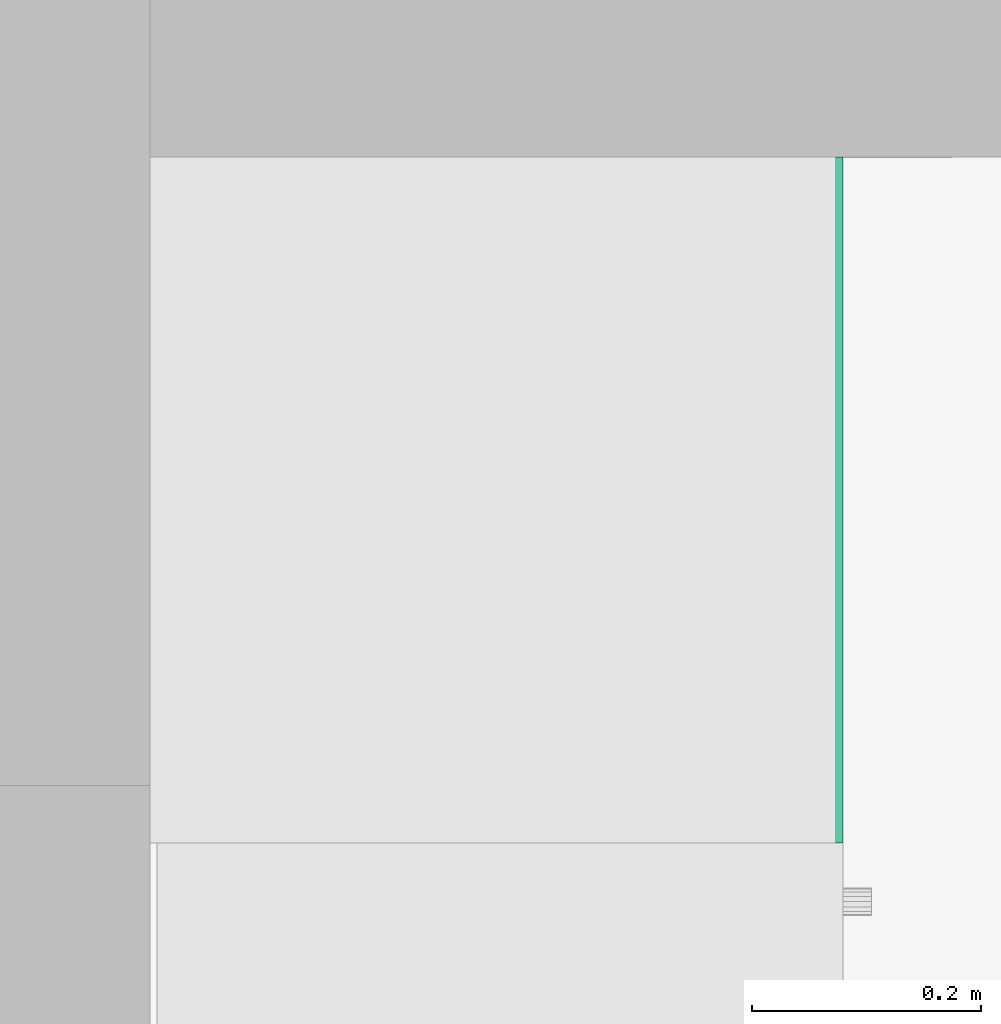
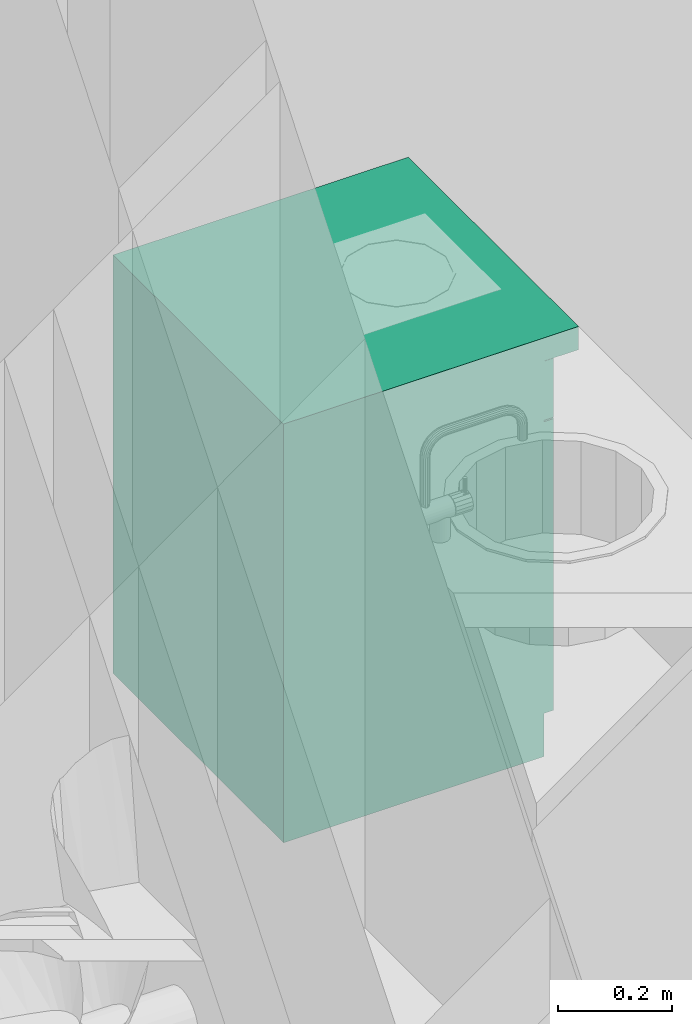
# One storey, part 30 of 165: 1 flow terminal.
"""IFC2X3 building model written with IfcOpenShell, lengths in millimetres."""

from ifc_helpers import new_model, entity, si_unit, converted_unit, money_unit, direction, frame, origin_with_axes, place, context, subcontext, project, spatial, faceted_brep, source, transform, mapped, material, material_list, type_object, element, save


model = new_model("IFC2X3")

# Units and contexts
model_context = context("Model", 3, precision=1e-05, world=origin_with_axes(), true_north=direction((0.0, 1.0)))
body_context = subcontext(model_context, "Body", "Model", "MODEL_VIEW")
ifc_project = project(units=[si_unit("LENGTHUNIT", "METRE", prefix="MILLI"), si_unit("AREAUNIT", "SQUARE_METRE"), si_unit("VOLUMEUNIT", "CUBIC_METRE"), converted_unit("PLANEANGLEUNIT", "DEGREE", entity("IfcPlaneAngleMeasure", 0.0174532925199), si_unit("PLANEANGLEUNIT", "RADIAN"), dimensions=[0, 0, 0, 0, 0, 0, 0]), si_unit("SOLIDANGLEUNIT", "STERADIAN"), money_unit("USD"), converted_unit("TIMEUNIT", "Year", entity("IfcTimeMeasure", 31556926.0), si_unit("TIMEUNIT", "SECOND"), dimensions=[0, 0, 0, 0, 0, 0, 0]), si_unit("MASSUNIT", "GRAM"), si_unit("THERMODYNAMICTEMPERATUREUNIT", "DEGREE_CELSIUS"), si_unit("LUMINOUSINTENSITYUNIT", "LUMEN")], contexts=[model_context])

# Site, building, storey
site_placement = place(None, origin_with_axes())
site = spatial("IfcSite", under=ifc_project, at=site_placement, Name="Site", CompositionType="ELEMENT")
building_placement = place(site_placement, origin_with_axes())
building = spatial("IfcBuilding", under=site, at=building_placement, Name="Building", CompositionType="ELEMENT")
storey_placement = place(building_placement, frame((0.0, 0.0, 6300.0), z_axis=(0.0, 0.0, 1.0), x_axis=(1.0, 0.0, 0.0)))
storey = spatial("IfcBuildingStorey", under=building, at=storey_placement, Name="4KORRUS", CompositionType="ELEMENT", Elevation=6300.0)

# Flow terminal
ifc_material = material(Name="Background")
ifc_material_list = material_list([ifc_material])
sanitary_terminal_type = type_object("IfcSanitaryTerminalType", Name="Cabinet Base Single Door 19", PredefinedType="SINK")
shared_shape = source(origin_with_axes(), body_context, "Body", "Brep", [
    faceted_brep([(20.0, 70.0, 710.0), (580.0, 70.0, 710.0), (580.0, 70.0, 730.0), (20.0, 70.0, 730.0), (20.0, 580.0, 710.0), (580.0, 580.0, 710.0), (580.0, 580.0, 730.0), (20.0, 580.0, 730.0)], [[[0, 1, 2, 3]], [[0, 4, 5, 1]], [[1, 5, 6, 2]], [[3, 2, 6, 7]], [[4, 0, 3, 7]], [[5, 4, 7, 6]]]),
    faceted_brep([(0.0, 70.0, 0.0), (600.0, 70.0, 0.0), (600.0, 70.0, 90.0), (0.0, 70.0, 90.0), (0.0, 600.0, 0.0), (600.0, 600.0, 0.0), (600.0, 600.0, 90.0), (0.0, 600.0, 90.0)], [[[0, 1, 2, 3]], [[0, 4, 5, 1]], [[1, 5, 6, 2]], [[3, 2, 6, 7]], [[4, 0, 3, 7]], [[5, 4, 7, 6]]]),
    faceted_brep([(0.0, 70.0, 830.0), (20.0, 70.0, 830.0), (20.0, 70.0, 850.0), (0.0, 70.0, 850.0), (0.0, 600.0, 830.0), (20.0, 600.0, 830.0), (580.0, 600.0, 830.0), (600.0, 600.0, 830.0), (600.0, 70.0, 830.0), (580.0, 70.0, 830.0), (580.0, 70.0, 850.0), (600.0, 70.0, 850.0), (600.0, 600.0, 850.0), (580.0, 600.0, 850.0), (20.0, 600.0, 850.0), (0.0, 600.0, 850.0)], [[[0, 1, 2, 3]], [[0, 4, 5, 6, 7, 8, 9, 1]], [[1, 9, 10, 2]], [[3, 2, 10, 11, 12, 13, 14, 15]], [[4, 0, 3, 15]], [[5, 4, 15, 14]], [[6, 5, 14, 13]], [[7, 6, 13, 12]], [[8, 7, 12, 11]], [[9, 8, 11, 10]]]),
    faceted_brep([(0.0, 70.0, 90.0), (20.0, 70.0, 90.0), (20.0, 70.0, 110.0), (0.0, 70.0, 110.0), (0.0, 600.0, 90.0), (20.0, 600.0, 90.0), (580.0, 600.0, 90.0), (600.0, 600.0, 90.0), (600.0, 70.0, 90.0), (580.0, 70.0, 90.0), (580.0, 70.0, 110.0), (600.0, 70.0, 110.0), (600.0, 600.0, 110.0), (580.0, 600.0, 110.0), (20.0, 600.0, 110.0), (0.0, 600.0, 110.0)], [[[0, 1, 2, 3]], [[0, 4, 5, 6, 7, 8, 9, 1]], [[1, 9, 10, 2]], [[3, 2, 10, 11, 12, 13, 14, 15]], [[4, 0, 3, 15]], [[5, 4, 15, 14]], [[6, 5, 14, 13]], [[7, 6, 13, 12]], [[8, 7, 12, 11]], [[9, 8, 11, 10]]]),
    faceted_brep([(0.0, 70.0, 110.0), (20.0, 70.0, 110.0), (20.0, 70.0, 830.0), (0.0, 70.0, 830.0), (0.0, 600.0, 110.0), (600.0, 600.0, 110.0), (600.0, 70.0, 110.0), (580.0, 70.0, 110.0), (580.0, 580.0, 110.0), (20.0, 580.0, 110.0), (20.0, 580.0, 830.0), (580.0, 580.0, 830.0), (580.0, 70.0, 830.0), (600.0, 70.0, 830.0), (600.0, 600.0, 830.0), (0.0, 600.0, 830.0)], [[[0, 1, 2, 3]], [[0, 4, 5, 6, 7, 8, 9, 1]], [[1, 9, 10, 2]], [[3, 2, 10, 11, 12, 13, 14, 15]], [[4, 0, 3, 15]], [[5, 4, 15, 14]], [[6, 5, 14, 13]], [[7, 6, 13, 12]], [[8, 7, 12, 11]], [[9, 8, 11, 10]]]),
    faceted_brep([(580.0, 70.0, 385.0), (580.0, 580.0, 385.0), (580.0, 580.0, 405.0), (580.0, 70.0, 405.0), (20.0, 70.0, 385.0), (20.0, 580.0, 385.0), (20.0, 580.0, 405.0), (20.0, 70.0, 405.0)], [[[0, 1, 2, 3]], [[0, 4, 5, 1]], [[1, 5, 6, 2]], [[3, 2, 6, 7]], [[4, 0, 3, 7]], [[5, 4, 7, 6]]]),
    faceted_brep([(0.0, 0.0, 850.0), (600.0, 0.0, 850.0), (600.0, 0.0, 900.0), (0.0, 0.0, 900.0), (0.0, 600.0, 850.0), (600.0, 600.0, 850.0), (600.0, 600.0, 900.0), (0.0, 600.0, 900.0)], [[[0, 1, 2, 3]], [[0, 4, 5, 1]], [[1, 5, 6, 2]], [[3, 2, 6, 7]], [[4, 0, 3, 7]], [[5, 4, 7, 6]]]),
    faceted_brep([(1.5, 70.0, 721.5), (598.5, 70.0, 721.5), (598.5, 50.0, 721.5), (1.5, 50.0, 721.5), (1.5, 70.0, 848.5), (598.5, 70.0, 848.5), (598.5, 50.0, 848.5), (1.5, 50.0, 848.5)], [[[0, 1, 2, 3]], [[0, 4, 5, 1]], [[1, 5, 6, 2]], [[3, 2, 6, 7]], [[4, 0, 3, 7]], [[5, 4, 7, 6]]]),
    faceted_brep([(295.408, 50.0, 773.913), (291.515, 50.0, 776.515), (288.913, 50.0, 780.408), (288.0, 50.0, 785.0), (288.913, 50.0, 789.592), (291.515, 50.0, 793.485), (295.408, 50.0, 796.087), (300.0, 50.0, 797.0), (304.592, 50.0, 796.087), (308.485, 50.0, 793.485), (311.087, 50.0, 789.592), (312.0, 50.0, 785.0), (311.087, 50.0, 780.408), (308.485, 50.0, 776.515), (304.592, 50.0, 773.913), (300.0, 50.0, 773.0), (295.408, 25.0, 773.913), (291.515, 25.0, 776.515), (288.913, 25.0, 780.408), (288.0, 25.0, 785.0), (288.913, 25.0, 789.592), (291.515, 25.0, 793.485), (295.408, 25.0, 796.087), (300.0, 25.0, 797.0), (304.592, 25.0, 796.087), (308.485, 25.0, 793.485), (311.087, 25.0, 789.592), (312.0, 25.0, 785.0), (311.087, 25.0, 780.408), (308.485, 25.0, 776.515), (304.592, 25.0, 773.913), (300.0, 25.0, 773.0)], [[[0, 1, 2, 3, 4, 5, 6, 7, 8, 9, 10, 11, 12, 13, 14, 15]], [[1, 0, 16, 17]], [[2, 1, 17, 18]], [[3, 2, 18, 19]], [[4, 3, 19, 20]], [[5, 4, 20, 21]], [[6, 5, 21, 22]], [[7, 6, 22, 23]], [[8, 7, 23, 24]], [[9, 8, 24, 25]], [[10, 9, 25, 26]], [[11, 10, 26, 27]], [[12, 11, 27, 28]], [[13, 12, 28, 29]], [[14, 13, 29, 30]], [[15, 14, 30, 31]], [[0, 15, 31, 16]], [[16, 31, 30, 29, 28, 27, 26, 25, 24, 23, 22, 21, 20, 19, 18, 17]]]),
    faceted_brep([(1.5, 70.0, 91.5), (598.5, 70.0, 91.5), (598.5, 50.0, 91.5), (1.5, 50.0, 91.5), (1.5, 70.0, 718.5), (598.5, 70.0, 718.5), (598.5, 50.0, 718.5), (1.5, 50.0, 718.5)], [[[0, 1, 2, 3]], [[0, 4, 5, 1]], [[1, 5, 6, 2]], [[3, 2, 6, 7]], [[4, 0, 3, 7]], [[5, 4, 7, 6]]]),
    faceted_brep([(559.587, 50.0, 636.908), (556.985, 50.0, 633.015), (553.092, 50.0, 630.413), (548.5, 50.0, 629.5), (543.908, 50.0, 630.413), (540.015, 50.0, 633.015), (537.413, 50.0, 636.908), (536.5, 50.0, 641.5), (537.413, 50.0, 646.092), (540.015, 50.0, 649.985), (543.908, 50.0, 652.587), (548.5, 50.0, 653.5), (553.092, 50.0, 652.587), (556.985, 50.0, 649.985), (559.587, 50.0, 646.092), (560.5, 50.0, 641.5), (559.587, 25.0, 636.908), (556.985, 25.0, 633.015), (553.092, 25.0, 630.413), (548.5, 25.0, 629.5), (543.908, 25.0, 630.413), (540.015, 25.0, 633.015), (537.413, 25.0, 636.908), (536.5, 25.0, 641.5), (537.413, 25.0, 646.092), (540.015, 25.0, 649.985), (543.908, 25.0, 652.587), (548.5, 25.0, 653.5), (553.092, 25.0, 652.587), (556.985, 25.0, 649.985), (559.587, 25.0, 646.092), (560.5, 25.0, 641.5)], [[[0, 1, 2, 3, 4, 5, 6, 7, 8, 9, 10, 11, 12, 13, 14, 15]], [[1, 0, 16, 17]], [[2, 1, 17, 18]], [[3, 2, 18, 19]], [[4, 3, 19, 20]], [[5, 4, 20, 21]], [[6, 5, 21, 22]], [[7, 6, 22, 23]], [[8, 7, 23, 24]], [[9, 8, 24, 25]], [[10, 9, 25, 26]], [[11, 10, 26, 27]], [[12, 11, 27, 28]], [[13, 12, 28, 29]], [[14, 13, 29, 30]], [[15, 14, 30, 31]], [[0, 15, 31, 16]], [[16, 31, 30, 29, 28, 27, 26, 25, 24, 23, 22, 21, 20, 19, 18, 17]]]),
])
flow_terminal_placement = place(storey_placement, frame((-47384.008308, -13789.2398994, 0.0), z_axis=(0.0, 0.0, 1.0), x_axis=(0.0, 1.0, 0.0)))
element("IfcFlowTerminal", 1, at=flow_terminal_placement, inside=storey, type_object=sanitary_terminal_type, material=ifc_material_list, Name="FU - 007", context=body_context, shape_type="MappedRepresentation", body=[
    mapped(shared_shape, transform((0.0, 0.0, 0.0))),
])

save(model, "model.ifc")
